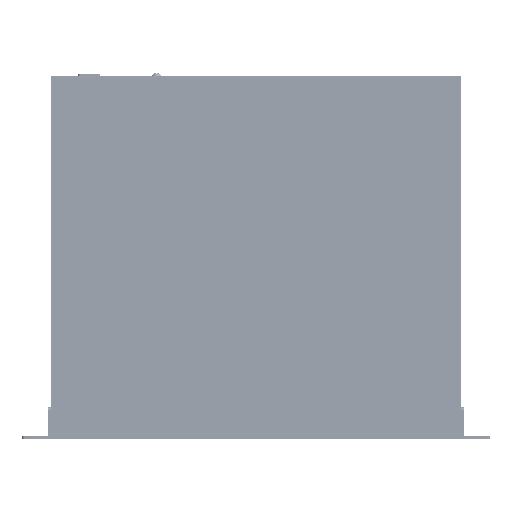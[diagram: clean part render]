
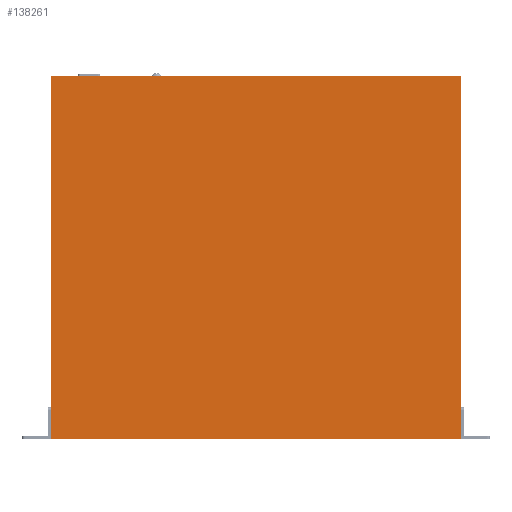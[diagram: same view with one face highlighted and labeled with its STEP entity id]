
A CAD part, top view. The second image highlights one B-rep face of the part: STEP entity #138261.
In plain terms, the highlighted planar face has unit normal (0, 0, 1).
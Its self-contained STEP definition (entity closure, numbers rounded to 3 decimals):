
#14641=PLANE('',#146082);
#21134=FACE_OUTER_BOUND('',#29234,.T.);
#29234=EDGE_LOOP('',(#130401,#130402,#130403,#130404));
#43787=LINE('',#282809,#58376);
#43790=LINE('',#282815,#58379);
#43793=LINE('',#282821,#58382);
#43796=LINE('',#282825,#58385);
#58376=VECTOR('',#175929,10.);
#58379=VECTOR('',#175934,10.);
#58382=VECTOR('',#175939,10.);
#58385=VECTOR('',#175944,10.);
#74754=VERTEX_POINT('',#282806);
#74755=VERTEX_POINT('',#282808);
#74757=VERTEX_POINT('',#282814);
#74759=VERTEX_POINT('',#282820);
#94565=EDGE_CURVE('',#74755,#74754,#43787,.T.);
#94568=EDGE_CURVE('',#74757,#74755,#43790,.T.);
#94571=EDGE_CURVE('',#74759,#74757,#43793,.T.);
#94574=EDGE_CURVE('',#74754,#74759,#43796,.T.);
#130401=ORIENTED_EDGE('',*,*,#94574,.T.);
#130402=ORIENTED_EDGE('',*,*,#94571,.T.);
#130403=ORIENTED_EDGE('',*,*,#94568,.T.);
#130404=ORIENTED_EDGE('',*,*,#94565,.T.);
#138261=ADVANCED_FACE('',(#21134),#14641,.T.);
#146082=AXIS2_PLACEMENT_3D('',#282826,#175945,#175946);
#175929=DIRECTION('',(-1.,0.,0.));
#175934=DIRECTION('',(0.,1.,0.));
#175939=DIRECTION('',(1.,0.,0.));
#175944=DIRECTION('',(0.,-1.,0.));
#175945=DIRECTION('center_axis',(0.,0.,1.));
#175946=DIRECTION('ref_axis',(1.,0.,0.));
#282806=CARTESIAN_POINT('',(-209.55,185.42,90.5));
#282808=CARTESIAN_POINT('',(209.55,185.42,90.5));
#282809=CARTESIAN_POINT('',(-209.55,185.42,90.5));
#282814=CARTESIAN_POINT('',(209.55,-185.42,90.5));
#282815=CARTESIAN_POINT('',(209.55,185.42,90.5));
#282820=CARTESIAN_POINT('',(-209.55,-185.42,90.5));
#282821=CARTESIAN_POINT('',(209.55,-185.42,90.5));
#282825=CARTESIAN_POINT('',(-209.55,-185.42,90.5));
#282826=CARTESIAN_POINT('Origin',(0.,0.,
90.5));
